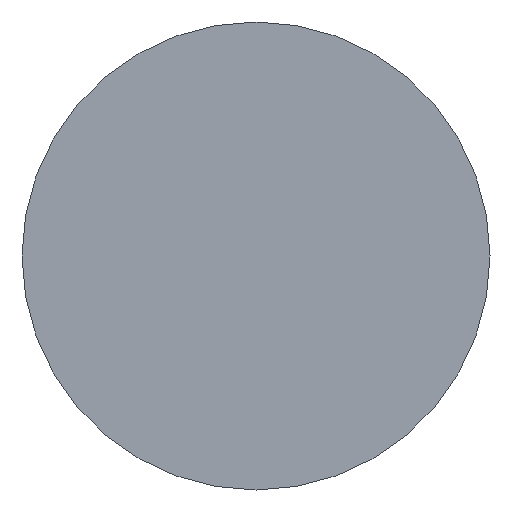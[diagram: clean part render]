
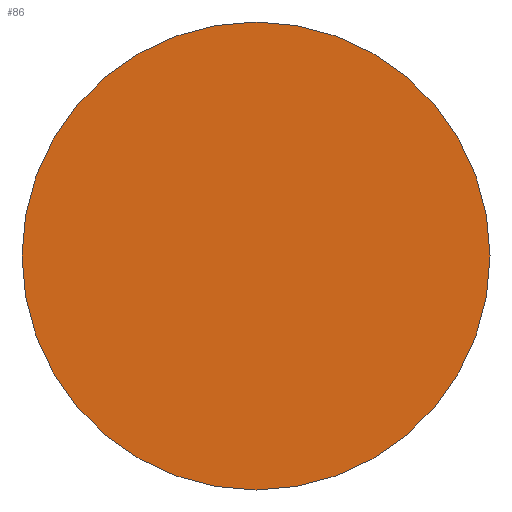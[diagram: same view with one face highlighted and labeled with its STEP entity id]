
A CAD part, left-side view. The second image highlights one B-rep face of the part: STEP entity #86.
In plain terms, the highlighted planar face has unit normal (-1, 0, 0).
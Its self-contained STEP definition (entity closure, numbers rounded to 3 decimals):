
#6 = EDGE_CURVE ( 'NONE', #35, #238, #124, .T. ) ;
#9 = CARTESIAN_POINT ( 'NONE',  ( 0., 3., 0. ) ) ;
#14 = CARTESIAN_POINT ( 'NONE',  ( 0., 0., 0. ) ) ;
#27 = AXIS2_PLACEMENT_3D ( 'NONE', #14, #213, #177 ) ;
#35 = VERTEX_POINT ( 'NONE', #209 ) ;
#44 = DIRECTION ( 'NONE',  ( 1., 0., 0. ) ) ;
#53 = CARTESIAN_POINT ( 'NONE',  ( 0., 0., 0. ) ) ;
#56 = EDGE_CURVE ( 'NONE', #238, #35, #243, .T. ) ;
#65 = EDGE_LOOP ( 'NONE', ( #154, #264 ) ) ;
#66 = DIRECTION ( 'NONE',  ( 0., 1., 0. ) ) ;
#83 = DIRECTION ( 'NONE',  ( 0., -1., 0. ) ) ;
#86 = ADVANCED_FACE ( 'NONE', ( #114 ), #211, .T. ) ;
#114 = FACE_OUTER_BOUND ( 'NONE', #65, .T. ) ;
#115 = AXIS2_PLACEMENT_3D ( 'NONE', #53, #44, #66 ) ;
#124 = CIRCLE ( 'NONE', #115, 3. ) ;
#154 = ORIENTED_EDGE ( 'NONE', *, *, #56, .F. ) ;
#156 = AXIS2_PLACEMENT_3D ( 'NONE', #166, #263, #83 ) ;
#166 = CARTESIAN_POINT ( 'NONE',  ( 0., 0., 0. ) ) ;
#177 = DIRECTION ( 'NONE',  ( 0., 1., 0. ) ) ;
#209 = CARTESIAN_POINT ( 'NONE',  ( 0., -3., 0. ) ) ;
#211 = PLANE ( 'NONE',  #156 ) ;
#213 = DIRECTION ( 'NONE',  ( 1., 0., 0. ) ) ;
#238 = VERTEX_POINT ( 'NONE', #9 ) ;
#243 = CIRCLE ( 'NONE', #27, 3. ) ;
#263 = DIRECTION ( 'NONE',  ( -1., 0., 0. ) ) ;
#264 = ORIENTED_EDGE ( 'NONE', *, *, #6, .F. ) ;
